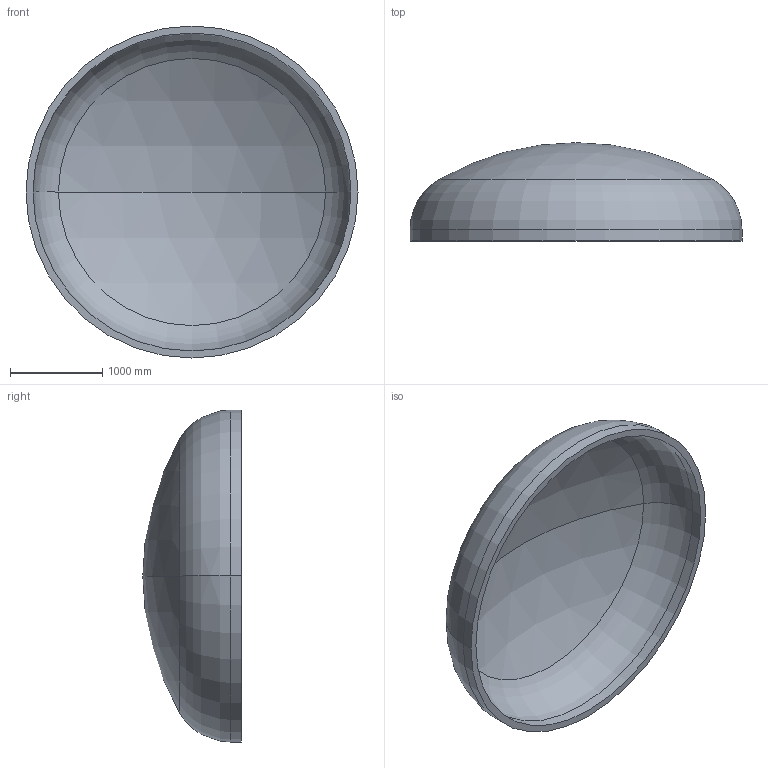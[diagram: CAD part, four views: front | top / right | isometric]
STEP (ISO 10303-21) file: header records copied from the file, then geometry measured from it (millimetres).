
FILE_DESCRIPTION (( 'STEP AP203' ), '1' );
FILE_NAME ('DIN 28013 Korbbogenform_-_Boden DIN 28013 - 3600 x 120 - I - s=76.step', '2016-07-01T20:40:44', ( '' ), ( '' ), 'SwSTEP 2.0', 'SolidWorks 2013', '' );
FILE_SCHEMA (( 'CONFIG_CONTROL_DESIGN' ));
Length unit declared in the file: millimetre
Products named in the file (1): DIN 28013 Korbbogenform_-_Boden DIN 28013 - 3600 x 120 - I - s=76
Bounding box: 3600 x 1066.26 x 3600 mm (x, y, z)
Volume: 1143252040.1 mm3; surface area: 30939060.8 mm2
Topology: 1 solids, 1 shells, 13 faces, 24 edges, 14 vertices
Faces by surface type: torus 4, cylinder 4, sphere 4, plane 1
Entity records: 407 total; most frequent: DIRECTION 72, CARTESIAN_POINT 52, ORIENTED_EDGE 48, AXIS2_PLACEMENT_3D 34, EDGE_CURVE 24, CIRCLE 20, VERTEX_POINT 14, EDGE_LOOP 14
